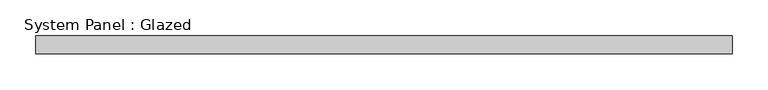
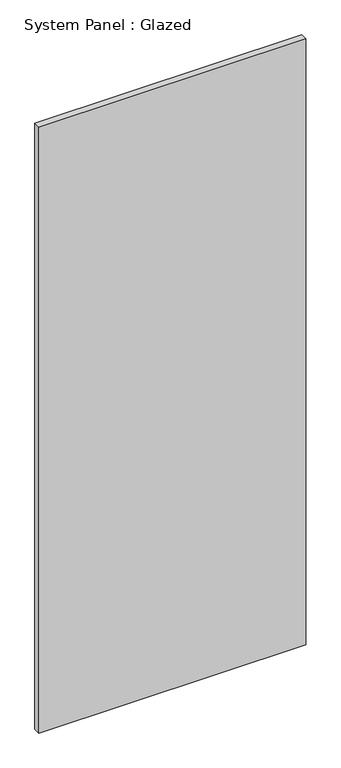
"""IFC4 building model written with IfcOpenShell, lengths in millimetres: plate geometry, System Panel : Glazed."""

import ifcopenshell
import ifcopenshell.guid

model = None  # the IFC model being written
_history = None  # IfcOwnerHistory: only IFC2X3 demands one
_inside = {}  # id of a spatial element -> (the spatial element, [elements in it])
_under = {}  # id of a project, library or spatial element -> (it, [spatial elements below it])
_declared = {}  # id of a project -> (the project, [libraries it declares])
_typed = {}  # id of a type object -> (the type object, [elements of that type])
_made_of = {}  # id of a material, layer set ... -> (it, [elements and type objects made of it])


def new_model(schema):
    """Start an empty IFC model of exactly this schema.

    Asked for "IFC4X3", IfcOpenShell would pick the latest addendum, in which some entities
    have other attributes; the version numbers below select the first issue.
    IFC2X3 requires an IfcOwnerHistory on every rooted entity: one is made here for all.
    """
    global model, _history
    if schema == "IFC4X3":
        model = ifcopenshell.file(schema_version=(4, 3, 0, 0))
    else:
        model = ifcopenshell.file(schema=schema)
    _inside.clear()
    _under.clear()
    _declared.clear()
    _typed.clear()
    _made_of.clear()
    _history = None
    if model.schema == "IFC2X3":
        org = make("IfcOrganization", Name="unknown")
        user = make(
            "IfcPersonAndOrganization",
            ThePerson=make("IfcPerson", FamilyName="unknown"),
            TheOrganization=org,
        )
        app = make(
            "IfcApplication",
            ApplicationDeveloper=org,
            Version="unknown",
            ApplicationFullName="unknown",
            ApplicationIdentifier="unknown",
        )
        _history = make(
            "IfcOwnerHistory",
            OwningUser=user,
            OwningApplication=app,
            ChangeAction="ADDED",
            CreationDate=0,
        )
    return model


def make(cls, **values):
    """One entity of the class cls with the attributes given. An attribute that is None is left unset."""
    return model.create_entity(
        cls, **{name: value for name, value in values.items() if value is not None}
    )


def rooted(cls, **values):
    """An entity with a GlobalId (a new one), such as an element, a storey or a relation."""
    return make(cls, GlobalId=ifcopenshell.guid.new(), OwnerHistory=_history, **values)


def si_unit(unit_type, name, prefix=None):
    """IfcSIUnit, for example si_unit("LENGTHUNIT", "METRE", prefix="MILLI")."""
    return make("IfcSIUnit", UnitType=unit_type, Prefix=prefix, Name=name)


def assignment(units):
    """IfcUnitAssignment: the units of a project."""
    return None if units is None else make("IfcUnitAssignment", Units=units)


def point(xyz):
    """IfcCartesianPoint."""
    return None if xyz is None else make("IfcCartesianPoint", Coordinates=xyz)


def direction(xyz):
    """IfcDirection."""
    return None if xyz is None else make("IfcDirection", DirectionRatios=xyz)


def frame(location, z_axis=None, x_axis=None):
    """IfcAxis2Placement3D, a coordinate frame: its origin and axes. An axis left out is left unset."""
    return make(
        "IfcAxis2Placement3D",
        Location=point(location),
        Axis=direction(z_axis),
        RefDirection=direction(x_axis),
    )


def origin():
    """The frame at (0, 0, 0) with its axes left unset."""
    return frame((0.0, 0.0, 0.0))


def origin_with_axes():
    """The frame at (0, 0, 0) with the z axis (0, 0, 1) and the x axis (1, 0, 0) written out."""
    return frame((0.0, 0.0, 0.0), z_axis=(0.0, 0.0, 1.0), x_axis=(1.0, 0.0, 0.0))


def place(relative_to, where):
    """IfcLocalPlacement: puts the frame where relative to a parent placement (None: the world)."""
    return make(
        "IfcLocalPlacement", PlacementRelTo=relative_to, RelativePlacement=where
    )


def context(
    kind, dimensions, precision=None, world=None, true_north=None, identifier=None
):
    """IfcGeometricRepresentationContext, for example the 3D "Model" context."""
    return make(
        "IfcGeometricRepresentationContext",
        ContextIdentifier=identifier,
        ContextType=kind,
        CoordinateSpaceDimension=dimensions,
        Precision=precision,
        WorldCoordinateSystem=world,
        TrueNorth=true_north,
    )


def project(units=None, contexts=None):
    """IfcProject with its units and contexts."""
    return rooted(
        "IfcProject",
        Name="project",
        RepresentationContexts=contexts,
        UnitsInContext=assignment(units),
    )


def spatial(cls, under=None, at=None, **own):
    """A site, building, storey or space (cls), placed at a placement, below another one or the project."""
    s = rooted(cls, ObjectPlacement=at, **own)
    if under is not None:
        _under.setdefault(under.id(), (under, []))[1].append(s)
    return s


def polyline(points):
    """IfcPolyline through the points."""
    return make("IfcPolyline", Points=[point(p) for p in points])


def outline(outer, holes=None, kind="AREA"):
    """IfcArbitraryClosedProfileDef: a profile drawn as a closed curve; with holes, ...WithVoids."""
    if holes is None:
        return make("IfcArbitraryClosedProfileDef", ProfileType=kind, OuterCurve=outer)
    return make(
        "IfcArbitraryProfileDefWithVoids",
        ProfileType=kind,
        OuterCurve=outer,
        InnerCurves=holes,
    )


def extrude(swept, where, along, depth):
    """IfcExtrudedAreaSolid: the profile swept, set in the frame where, extruded along a direction by depth."""
    return make(
        "IfcExtrudedAreaSolid",
        SweptArea=swept,
        Position=where,
        ExtrudedDirection=direction(along),
        Depth=depth,
    )


def shape(context_of_items, identifier, shape_type, items):
    """IfcShapeRepresentation: the items that make up one representation, for example the "Body"."""
    return make(
        "IfcShapeRepresentation",
        ContextOfItems=context_of_items,
        RepresentationIdentifier=identifier,
        RepresentationType=shape_type,
        Items=items,
    )


def source(mapping_origin, context_of_items, identifier, shape_type, items):
    """IfcRepresentationMap: a shape defined once, which mapped items show again and again."""
    return make(
        "IfcRepresentationMap",
        MappingOrigin=mapping_origin,
        MappedRepresentation=shape(context_of_items, identifier, shape_type, items),
    )


def transform(
    local_origin,
    x_axis=None,
    y_axis=None,
    z_axis=None,
    scale=None,
    scale2=None,
    scale3=None,
    uniform=True,
):
    """IfcCartesianTransformationOperator3D, or its non-uniform kind. x_axis, y_axis, z_axis: its Axis1, 2, 3."""
    if uniform:
        return make(
            "IfcCartesianTransformationOperator3D",
            Axis1=direction(x_axis),
            Axis2=direction(y_axis),
            LocalOrigin=point(local_origin),
            Scale=scale,
            Axis3=direction(z_axis),
        )
    return make(
        "IfcCartesianTransformationOperator3DnonUniform",
        Axis1=direction(x_axis),
        Axis2=direction(y_axis),
        LocalOrigin=point(local_origin),
        Scale=scale,
        Axis3=direction(z_axis),
        Scale2=scale2,
        Scale3=scale3,
    )


def mapped(mapping_source, mapping_target):
    """IfcMappedItem: shows the shape of a source again, moved by a transform."""
    return make(
        "IfcMappedItem", MappingSource=mapping_source, MappingTarget=mapping_target
    )


def made_of(thing, what):
    """Note that an element or type object is made of a material, layer set ...; save() writes the relation."""
    if what is not None:
        _made_of.setdefault(what.id(), (what, []))[1].append(thing)
    return thing


def element(
    cls,
    number,
    at=None,
    inside=None,
    cuts=None,
    type_object=None,
    material=None,
    context=None,
    identifier="Body",
    shape_type=None,
    held_by="IfcProductDefinitionShape",
    body=None,
    shapes=None,
    **own,
):
    """One element of the class cls, such as IfcWall. Its Tag is "e" and its number.

    at: its placement. inside: the storey or other place that contains it. cuts: it is an
    opening in that element (IfcRelVoidsElement). A single representation is given by context,
    identifier, shape_type and body (its items); several are given by shapes. held_by: the class
    of the entity that holds the representations. save() writes the other relations.
    """
    e = rooted(cls, Tag="e%d" % number, ObjectPlacement=at, **own)
    if body is not None:
        shapes = [shape(context, identifier, shape_type, body)]
    if shapes is not None:
        e.Representation = make(held_by, Representations=shapes)
    if inside is not None:
        _inside.setdefault(inside.id(), (inside, []))[1].append(e)
    if cuts is not None:
        rooted(
            "IfcRelVoidsElement", RelatingBuildingElement=cuts, RelatedOpeningElement=e
        )
    if type_object is not None:
        _typed.setdefault(type_object.id(), (type_object, []))[1].append(e)
    return made_of(e, material)


def aggregate(whole, parts):
    """IfcRelAggregates: a whole, such as a stair, and the parts it consists of."""
    return rooted("IfcRelAggregates", RelatingObject=whole, RelatedObjects=parts)


def save(model, path):
    """Write the relations noted so far, then the file.

    IfcRelAggregates (storeys below a building ...), IfcRelContainedInSpatialStructure (elements
    in a storey), IfcRelDefinesByType, IfcRelAssociatesMaterial and IfcRelDeclares: one each for
    every whole, place, type object, material and project.
    """
    for whole, parts in _under.values():
        aggregate(whole, parts)
    for where, things in _inside.values():
        rooted(
            "IfcRelContainedInSpatialStructure",
            RelatedElements=things,
            RelatingStructure=where,
        )
    for kind, things in _typed.values():
        rooted("IfcRelDefinesByType", RelatedObjects=things, RelatingType=kind)
    for what, things in _made_of.values():
        rooted("IfcRelAssociatesMaterial", RelatedObjects=things, RelatingMaterial=what)
    for by, libraries in _declared.values():
        rooted("IfcRelDeclares", RelatingContext=by, RelatedDefinitions=libraries)
    model.write(path)


def system_panel_glazed_b4c5d3b2(model_context):
    return source(origin(), model_context, "Body", "SweptSolid", [
        extrude(outline(polyline([(488.0339313, -44.45), (-488.0339313, -44.45), (-488.0339313, -19.05), (488.0339313, -19.05), (488.0339313, -44.45)])), origin_with_axes(), (0.0, 0.0, 1.0), 2343.15),
    ])


if __name__ == "__main__":
    model = new_model("IFC4")
    model_context = context("Model", 3, world=origin())
    ifc_project = project(units=[si_unit("LENGTHUNIT", "METRE", prefix="MILLI")], contexts=[model_context])
    site = spatial("IfcSite", under=ifc_project)
    building = spatial("IfcBuilding", under=site)
    placement = place(None, origin())
    system_panel_glazed_shape = system_panel_glazed_b4c5d3b2(model_context)
    element("IfcPlate", 1, ObjectType="System Panel : Glazed", at=placement, inside=building, context=model_context, shape_type="MappedRepresentation", body=[
        mapped(system_panel_glazed_shape, transform((0.0, 0.0, 0.0), x_axis=(1.0, 0.0, 0.0), y_axis=(0.0, 1.0, 0.0), z_axis=(0.0, 0.0, 1.0))),
    ])
    save(model, "model.ifc")
